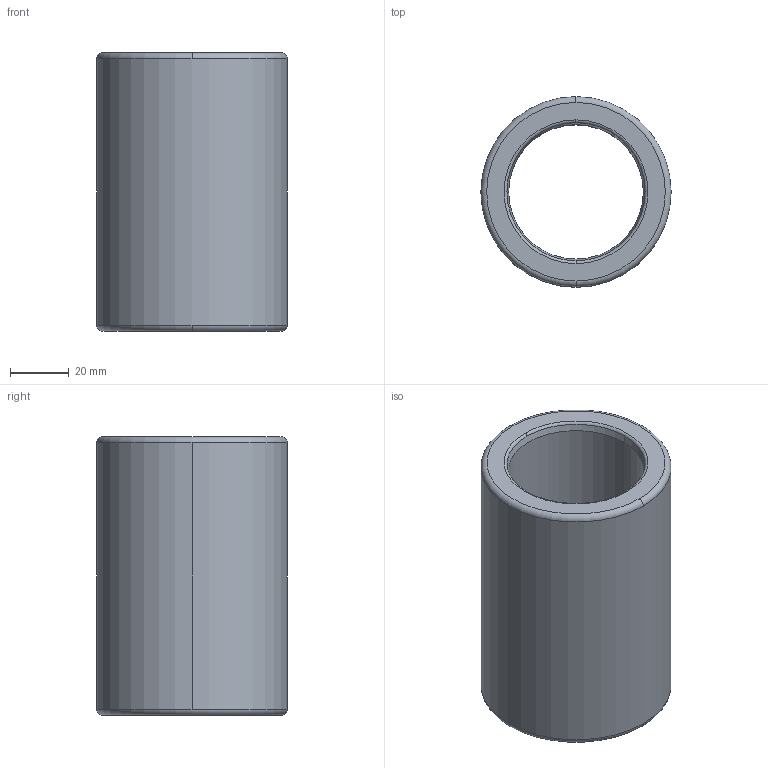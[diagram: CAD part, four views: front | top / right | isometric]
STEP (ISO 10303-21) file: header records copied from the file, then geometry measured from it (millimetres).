
FILE_DESCRIPTION((''),'2;1');
FILE_NAME('B30_038_095.stp','2009-01-12T10:46:21',(''),(''),'Mechanical Desktop 2009','Mechanical Desktop 2009',', , ');
FILE_SCHEMA(('CONFIG_CONTROL_DESIGN'));
Length unit declared in the file: millimetre
Products named in the file (2): Product; blmdl1
Assembly tree (1 placements, depth 2):
  Product
    blmdl1
Bounding box: 64.99 x 64.99 x 95 mm (x, y, z)
Volume: 156761.6 mm3; surface area: 35815.3 mm2
Topology: 1 solids, 1 shells, 18 faces, 48 edges, 32 vertices
Faces by surface type: torus 8, cylinder 4, cone 4, plane 2
Entity records: 705 total; most frequent: DIRECTION 128, CARTESIAN_POINT 100, ORIENTED_EDGE 96, AXIS2_PLACEMENT_3D 60, EDGE_CURVE 48, CIRCLE 40, VERTEX_POINT 32, EDGE_LOOP 20
